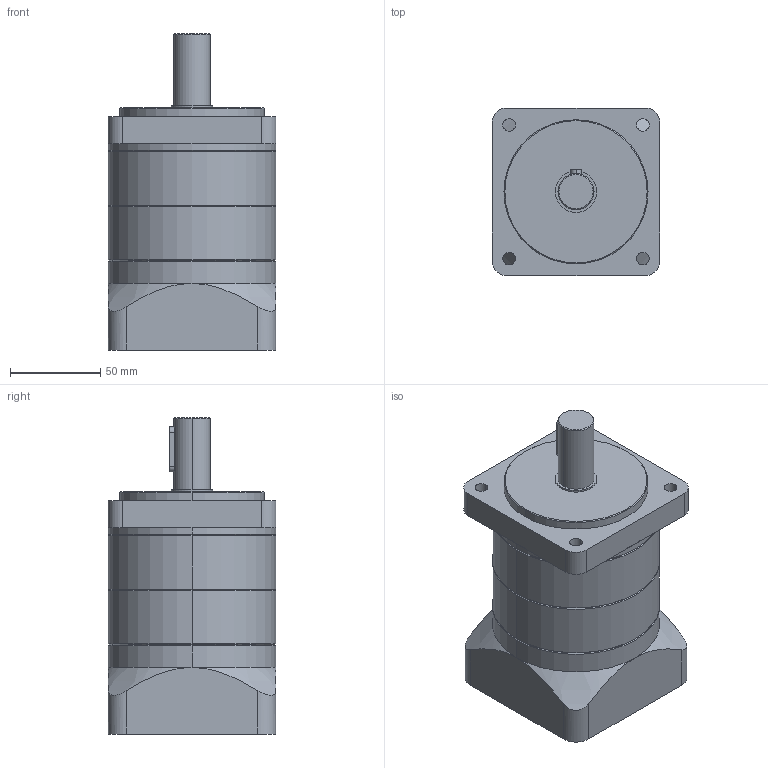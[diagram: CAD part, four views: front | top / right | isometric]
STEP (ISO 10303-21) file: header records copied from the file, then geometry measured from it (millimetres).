
FILE_DESCRIPTION (( 'STEP AP214' ), '1' );
FILE_NAME ('S93-L2.STEP', '2013-04-12T01:56:37', ( 'CPC-PC' ), ( '' ), 'SwSTEP 2.0', 'SolidWorks 2009', '' );
FILE_SCHEMA (( 'AUTOMOTIVE_DESIGN' ));
Length unit declared in the file: millimetre
Products named in the file (4): 93R; 93F; 93B; S93-L2
Assembly tree (4 placements, depth 2):
  S93-L2
    93B
    93R  x2
    93F
Bounding box: 93 x 93 x 175.5 mm (x, y, z)
Volume: 956104.1 mm3; surface area: 110416.1 mm2
Topology: 4 solids, 4 shells, 97 faces, 209 edges, 130 vertices
Faces by surface type: cylinder 45, plane 32, cone 20
Entity records: 2858 total; most frequent: CARTESIAN_POINT 704, DIRECTION 467, ORIENTED_EDGE 390, EDGE_CURVE 195, AXIS2_PLACEMENT_3D 191, VERTEX_POINT 122, EDGE_LOOP 107, CIRCLE 95
